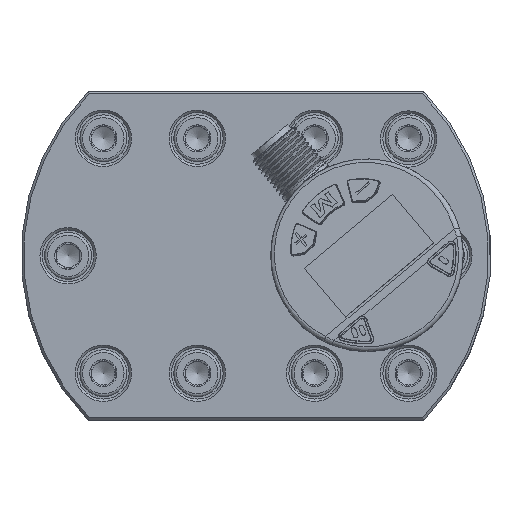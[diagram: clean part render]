
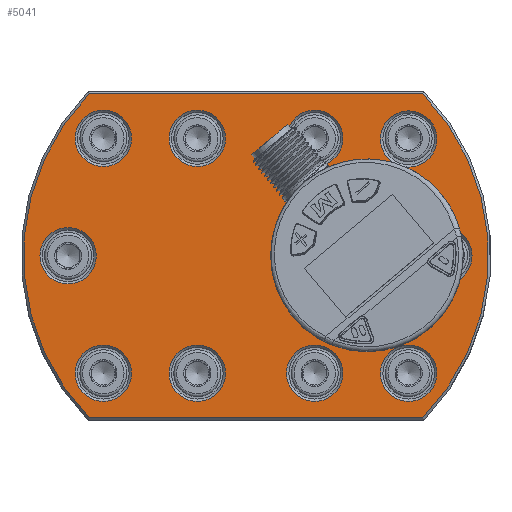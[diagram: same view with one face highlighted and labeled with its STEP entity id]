
A CAD part, top view. The second image highlights one B-rep face of the part: STEP entity #5041.
In plain terms, the highlighted planar face has unit normal (0, 0, 1).
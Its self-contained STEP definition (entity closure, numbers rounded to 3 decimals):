
#1635=PLANE('',#19152);
#2244=LINE('',#26960,#3338);
#2245=LINE('',#26965,#3339);
#3338=VECTOR('',#21583,1.);
#3339=VECTOR('',#21586,1.);
#5041=ADVANCED_FACE('',(#6621,#6622,#6623,#6624,#6625,#6626,#6627,#6628,
#6629,#6630,#6631,#6632,#6633,#6634),#1635,.T.);
#6621=FACE_BOUND('',#7463,.T.);
#6622=FACE_BOUND('',#7464,.T.);
#6623=FACE_BOUND('',#7465,.T.);
#6624=FACE_BOUND('',#7466,.T.);
#6625=FACE_BOUND('',#7467,.T.);
#6626=FACE_BOUND('',#7468,.T.);
#6627=FACE_BOUND('',#7469,.T.);
#6628=FACE_BOUND('',#7470,.T.);
#6629=FACE_BOUND('',#7471,.T.);
#6630=FACE_BOUND('',#7472,.T.);
#6631=FACE_BOUND('',#7473,.T.);
#6632=FACE_BOUND('',#7474,.T.);
#6633=FACE_BOUND('',#7475,.T.);
#6634=FACE_BOUND('',#7476,.T.);
#7463=EDGE_LOOP('',(#9220));
#7464=EDGE_LOOP('',(#9221));
#7465=EDGE_LOOP('',(#9222));
#7466=EDGE_LOOP('',(#9223));
#7467=EDGE_LOOP('',(#9224));
#7468=EDGE_LOOP('',(#9225));
#7469=EDGE_LOOP('',(#9226));
#7470=EDGE_LOOP('',(#9227));
#7471=EDGE_LOOP('',(#9228));
#7472=EDGE_LOOP('',(#9229));
#7473=EDGE_LOOP('',(#9230,#9231,#9232,#9233));
#7474=EDGE_LOOP('',(#9234));
#7475=EDGE_LOOP('',(#9235));
#7476=EDGE_LOOP('',(#9236));
#9220=ORIENTED_EDGE('',*,*,#15597,.T.);
#9221=ORIENTED_EDGE('',*,*,#15598,.T.);
#9222=ORIENTED_EDGE('',*,*,#15599,.T.);
#9223=ORIENTED_EDGE('',*,*,#15600,.T.);
#9224=ORIENTED_EDGE('',*,*,#15601,.T.);
#9225=ORIENTED_EDGE('',*,*,#15602,.T.);
#9226=ORIENTED_EDGE('',*,*,#15603,.T.);
#9227=ORIENTED_EDGE('',*,*,#15604,.T.);
#9228=ORIENTED_EDGE('',*,*,#15605,.T.);
#9229=ORIENTED_EDGE('',*,*,#15606,.T.);
#9230=ORIENTED_EDGE('',*,*,#15607,.T.);
#9231=ORIENTED_EDGE('',*,*,#15608,.T.);
#9232=ORIENTED_EDGE('',*,*,#15609,.T.);
#9233=ORIENTED_EDGE('',*,*,#15610,.T.);
#9234=ORIENTED_EDGE('',*,*,#15611,.T.);
#9235=ORIENTED_EDGE('',*,*,#15612,.T.);
#9236=ORIENTED_EDGE('',*,*,#15613,.F.);
#13914=VERTEX_POINT('',#26941);
#13915=VERTEX_POINT('',#26943);
#13916=VERTEX_POINT('',#26945);
#13917=VERTEX_POINT('',#26947);
#13918=VERTEX_POINT('',#26949);
#13919=VERTEX_POINT('',#26951);
#13920=VERTEX_POINT('',#26953);
#13921=VERTEX_POINT('',#26955);
#13922=VERTEX_POINT('',#26957);
#13923=VERTEX_POINT('',#26959);
#13924=VERTEX_POINT('',#26961);
#13925=VERTEX_POINT('',#26962);
#13926=VERTEX_POINT('',#26964);
#13927=VERTEX_POINT('',#26966);
#13928=VERTEX_POINT('',#26969);
#13929=VERTEX_POINT('',#26971);
#13930=VERTEX_POINT('',#26973);
#15597=EDGE_CURVE('',#13914,#13914,#17975,.T.);
#15598=EDGE_CURVE('',#13915,#13915,#17976,.T.);
#15599=EDGE_CURVE('',#13916,#13916,#17977,.T.);
#15600=EDGE_CURVE('',#13917,#13917,#17978,.T.);
#15601=EDGE_CURVE('',#13918,#13918,#17979,.T.);
#15602=EDGE_CURVE('',#13919,#13919,#17980,.T.);
#15603=EDGE_CURVE('',#13920,#13920,#17981,.T.);
#15604=EDGE_CURVE('',#13921,#13921,#17982,.T.);
#15605=EDGE_CURVE('',#13922,#13922,#17983,.T.);
#15606=EDGE_CURVE('',#13923,#13923,#17984,.T.);
#15607=EDGE_CURVE('',#13924,#13925,#2244,.T.);
#15608=EDGE_CURVE('',#13925,#13926,#17985,.T.);
#15609=EDGE_CURVE('',#13926,#13927,#2245,.T.);
#15610=EDGE_CURVE('',#13927,#13924,#17986,.T.);
#15611=EDGE_CURVE('',#13928,#13928,#17987,.T.);
#15612=EDGE_CURVE('',#13929,#13929,#17988,.T.);
#15613=EDGE_CURVE('',#13930,#13930,#17989,.T.);
#17975=CIRCLE('',#19137,6.);
#17976=CIRCLE('',#19138,6.);
#17977=CIRCLE('',#19139,6.);
#17978=CIRCLE('',#19140,6.);
#17979=CIRCLE('',#19141,6.);
#17980=CIRCLE('',#19142,6.);
#17981=CIRCLE('',#19143,6.);
#17982=CIRCLE('',#19144,6.);
#17983=CIRCLE('',#19145,6.);
#17984=CIRCLE('',#19146,6.);
#17985=CIRCLE('',#19147,49.5);
#17986=CIRCLE('',#19148,49.5);
#17987=CIRCLE('',#19149,1.5);
#17988=CIRCLE('',#19150,1.5);
#17989=CIRCLE('',#19151,6.25);
#19137=AXIS2_PLACEMENT_3D('',#26940,#21563,#21564);
#19138=AXIS2_PLACEMENT_3D('',#26942,#21565,#21566);
#19139=AXIS2_PLACEMENT_3D('',#26944,#21567,#21568);
#19140=AXIS2_PLACEMENT_3D('',#26946,#21569,#21570);
#19141=AXIS2_PLACEMENT_3D('',#26948,#21571,#21572);
#19142=AXIS2_PLACEMENT_3D('',#26950,#21573,#21574);
#19143=AXIS2_PLACEMENT_3D('',#26952,#21575,#21576);
#19144=AXIS2_PLACEMENT_3D('',#26954,#21577,#21578);
#19145=AXIS2_PLACEMENT_3D('',#26956,#21579,#21580);
#19146=AXIS2_PLACEMENT_3D('',#26958,#21581,#21582);
#19147=AXIS2_PLACEMENT_3D('',#26963,#21584,#21585);
#19148=AXIS2_PLACEMENT_3D('',#26967,#21587,#21588);
#19149=AXIS2_PLACEMENT_3D('',#26968,#21589,#21590);
#19150=AXIS2_PLACEMENT_3D('',#26970,#21591,#21592);
#19151=AXIS2_PLACEMENT_3D('',#26972,#21593,#21594);
#19152=AXIS2_PLACEMENT_3D('',#26974,#21595,#21596);
#21563=DIRECTION('',(0.,0.,-1.));
#21564=DIRECTION('',(1.,0.,0.));
#21565=DIRECTION('',(0.,0.,-1.));
#21566=DIRECTION('',(1.,0.,0.));
#21567=DIRECTION('',(0.,0.,-1.));
#21568=DIRECTION('',(1.,0.,0.));
#21569=DIRECTION('',(0.,0.,-1.));
#21570=DIRECTION('',(1.,0.,0.));
#21571=DIRECTION('',(0.,0.,-1.));
#21572=DIRECTION('',(1.,0.,0.));
#21573=DIRECTION('',(0.,0.,-1.));
#21574=DIRECTION('',(1.,0.,0.));
#21575=DIRECTION('',(0.,0.,-1.));
#21576=DIRECTION('',(1.,0.,0.));
#21577=DIRECTION('',(0.,0.,-1.));
#21578=DIRECTION('',(1.,0.,0.));
#21579=DIRECTION('',(0.,0.,-1.));
#21580=DIRECTION('',(1.,0.,0.));
#21581=DIRECTION('',(0.,0.,-1.));
#21582=DIRECTION('',(1.,0.,0.));
#21583=DIRECTION('',(-1.,0.,0.));
#21584=DIRECTION('',(0.,0.,1.));
#21585=DIRECTION('',(1.,0.,0.));
#21586=DIRECTION('',(1.,0.,0.));
#21587=DIRECTION('',(0.,0.,1.));
#21588=DIRECTION('',(1.,0.,0.));
#21589=DIRECTION('',(0.,0.,-1.));
#21590=DIRECTION('',(0.,1.,0.));
#21591=DIRECTION('',(0.,0.,-1.));
#21592=DIRECTION('',(0.,1.,0.));
#21593=DIRECTION('',(0.,0.,1.));
#21594=DIRECTION('',(0.707,0.707,0.));
#21595=DIRECTION('',(0.,0.,1.));
#21596=DIRECTION('',(1.,0.,0.));
#26940=CARTESIAN_POINT('',(32.5,-24.,55.));
#26941=CARTESIAN_POINT('',(38.5,-24.,55.));
#26942=CARTESIAN_POINT('',(12.5,-24.,55.));
#26943=CARTESIAN_POINT('',(18.5,-24.,55.));
#26944=CARTESIAN_POINT('',(-12.5,-24.,55.));
#26945=CARTESIAN_POINT('',(-6.5,-24.,55.));
#26946=CARTESIAN_POINT('',(-32.5,-24.,55.));
#26947=CARTESIAN_POINT('',(-26.5,-24.,55.));
#26948=CARTESIAN_POINT('',(-40.,1.,55.));
#26949=CARTESIAN_POINT('',(-34.,1.,55.));
#26950=CARTESIAN_POINT('',(-32.5,26.,55.));
#26951=CARTESIAN_POINT('',(-26.5,26.,55.));
#26952=CARTESIAN_POINT('',(-12.5,26.,55.));
#26953=CARTESIAN_POINT('',(-6.5,26.,55.));
#26954=CARTESIAN_POINT('',(12.5,26.,55.));
#26955=CARTESIAN_POINT('',(18.5,26.,55.));
#26956=CARTESIAN_POINT('',(32.5,25.86,55.));
#26957=CARTESIAN_POINT('',(38.5,25.86,55.));
#26958=CARTESIAN_POINT('',(40.,1.,55.));
#26959=CARTESIAN_POINT('',(46.,1.,55.));
#26960=CARTESIAN_POINT('',(0.,35.5,55.));
#26961=CARTESIAN_POINT('',(35.496,35.5,55.));
#26962=CARTESIAN_POINT('',(-35.496,35.5,55.));
#26963=CARTESIAN_POINT('',(0.,1.,55.));
#26964=CARTESIAN_POINT('',(-35.496,-33.5,55.));
#26965=CARTESIAN_POINT('',(0.,-33.5,55.));
#26966=CARTESIAN_POINT('',(35.496,-33.5,55.));
#26967=CARTESIAN_POINT('',(0.,1.,55.));
#26968=CARTESIAN_POINT('',(23.624,12.5,55.));
#26969=CARTESIAN_POINT('',(23.624,14.,55.));
#26970=CARTESIAN_POINT('',(23.624,-10.5,55.));
#26971=CARTESIAN_POINT('',(23.624,-9.,55.));
#26972=CARTESIAN_POINT('',(23.624,1.,55.));
#26973=CARTESIAN_POINT('',(28.044,5.419,55.));
#26974=CARTESIAN_POINT('',(0.,1.,55.));
